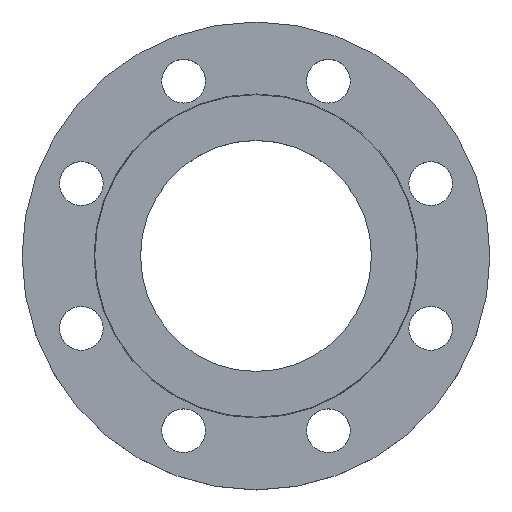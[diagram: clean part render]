
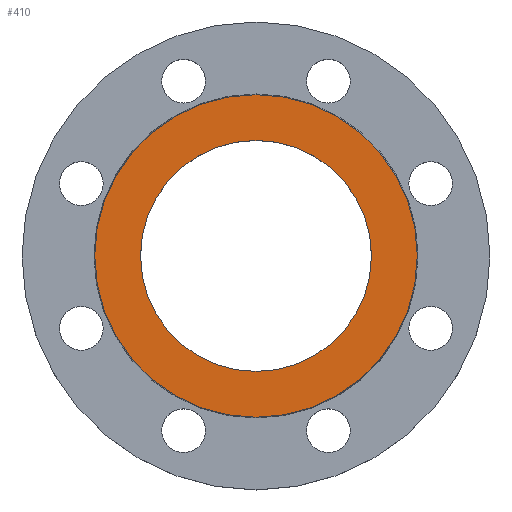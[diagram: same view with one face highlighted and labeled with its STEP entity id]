
A CAD part, top view. The second image highlights one B-rep face of the part: STEP entity #410.
In plain terms, the highlighted planar face has unit normal (0, 0, 1).
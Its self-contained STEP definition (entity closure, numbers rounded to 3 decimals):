
#1 = DIRECTION ( 'NONE',  ( 0., 0., -1. ) ) ;
#3 = DIRECTION ( 'NONE',  ( -1., 0., 0. ) ) ;
#6 = CARTESIAN_POINT ( 'NONE',  ( 0., 0., 0. ) ) ;
#13 = PLANE ( 'NONE',  #428 ) ;
#18 = FACE_OUTER_BOUND ( 'NONE', #817, .T. ) ;
#39 = CIRCLE ( 'NONE', #41, 58. ) ;
#41 = AXIS2_PLACEMENT_3D ( 'NONE', #133, #362, #573 ) ;
#54 = CARTESIAN_POINT ( 'NONE',  ( 0., 0., 0. ) ) ;
#58 = DIRECTION ( 'NONE',  ( 1., 0., 0. ) ) ;
#59 = DIRECTION ( 'NONE',  ( 0., 0., 1. ) ) ;
#67 = DIRECTION ( 'NONE',  ( -1., 0., 0. ) ) ;
#108 = AXIS2_PLACEMENT_3D ( 'NONE', #716, #190, #464 ) ;
#133 = CARTESIAN_POINT ( 'NONE',  ( 0., 0., 0. ) ) ;
#162 = CARTESIAN_POINT ( 'NONE',  ( -58., 0., 0. ) ) ;
#169 = CIRCLE ( 'NONE', #108, 58. ) ;
#187 = CIRCLE ( 'NONE', #809, 81. ) ;
#190 = DIRECTION ( 'NONE',  ( 0., 0., -1. ) ) ;
#333 = CARTESIAN_POINT ( 'NONE',  ( 58., 0., 0. ) ) ;
#362 = DIRECTION ( 'NONE',  ( 0., 0., -1. ) ) ;
#364 = CARTESIAN_POINT ( 'NONE',  ( 0., 0., 0. ) ) ;
#376 = AXIS2_PLACEMENT_3D ( 'NONE', #6, #1, #3 ) ;
#390 = CARTESIAN_POINT ( 'NONE',  ( -81., 0., 0. ) ) ;
#410 = ADVANCED_FACE ( 'NONE', ( #491, #18 ), #13, .T. ) ;
#428 = AXIS2_PLACEMENT_3D ( 'NONE', #54, #59, #58 ) ;
#464 = DIRECTION ( 'NONE',  ( -1., 0., 0. ) ) ;
#491 = FACE_BOUND ( 'NONE', #814, .T. ) ;
#503 = EDGE_CURVE ( 'NONE', #793, #665, #683, .T. ) ;
#543 = EDGE_CURVE ( 'NONE', #760, #821, #39, .T. ) ;
#555 = EDGE_CURVE ( 'NONE', #665, #793, #187, .T. ) ;
#573 = DIRECTION ( 'NONE',  ( -1., 0., 0. ) ) ;
#580 = DIRECTION ( 'NONE',  ( 0., 0., -1. ) ) ;
#626 = EDGE_CURVE ( 'NONE', #821, #760, #169, .T. ) ;
#665 = VERTEX_POINT ( 'NONE', #390 ) ;
#670 = ORIENTED_EDGE ( 'NONE', *, *, #626, .T. ) ;
#672 = ORIENTED_EDGE ( 'NONE', *, *, #543, .T. ) ;
#673 = ORIENTED_EDGE ( 'NONE', *, *, #555, .F. ) ;
#675 = ORIENTED_EDGE ( 'NONE', *, *, #503, .F. ) ;
#683 = CIRCLE ( 'NONE', #376, 81. ) ;
#716 = CARTESIAN_POINT ( 'NONE',  ( 0., 0., 0. ) ) ;
#760 = VERTEX_POINT ( 'NONE', #333 ) ;
#793 = VERTEX_POINT ( 'NONE', #875 ) ;
#809 = AXIS2_PLACEMENT_3D ( 'NONE', #364, #580, #67 ) ;
#814 = EDGE_LOOP ( 'NONE', ( #670, #672 ) ) ;
#817 = EDGE_LOOP ( 'NONE', ( #673, #675 ) ) ;
#821 = VERTEX_POINT ( 'NONE', #162 ) ;
#875 = CARTESIAN_POINT ( 'NONE',  ( 81., 0., 0. ) ) ;
